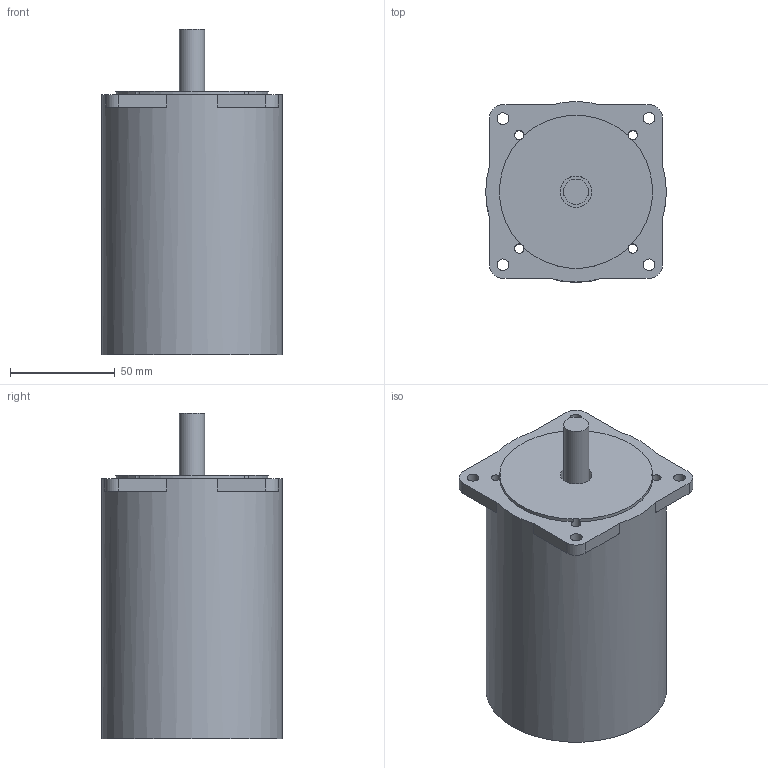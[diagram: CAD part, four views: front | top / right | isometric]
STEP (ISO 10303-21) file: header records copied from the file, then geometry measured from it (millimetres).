
FILE_DESCRIPTION(/* description */ (''),/* implementation_level */ '2;1');
FILE_NAME(/* name */ 'C:\Users\raffaele\Downloads\Projects\E&D\ipt-to-step-conversion\SLDPRT to STP\86ST125.stp',/* time_stamp */ '2021-04-07T17:16:37+02:00',/* author */ ('raffaele'),/* organization */ (''),/* preprocessor_version */ 'ST-DEVELOPER v18.1',/* originating_system */ 'Autodesk Inventor 2021',/* authorisation */ '');
FILE_SCHEMA (('AUTOMOTIVE_DESIGN { 1 0 10303 214 3 1 1 }'));
Length unit declared in the file: millimetre
Products named in the file (1): 86ST125
Bounding box: 86 x 86 x 155.1 mm (x, y, z)
Volume: 727936.2 mm3; surface area: 56798.4 mm2
Topology: 1 solids, 1 shells, 36 faces, 105 edges, 70 vertices
Faces by surface type: cylinder 19, plane 17
Full cylindrical faces by diameter (mm): 4.5 x4, 5.6 x4, 12 x1, 15 x1, 86 x1
Entity records: 1296 total; most frequent: DIRECTION 233, CARTESIAN_POINT 212, ORIENTED_EDGE 210, EDGE_CURVE 105, AXIS2_PLACEMENT_3D 91, VERTEX_POINT 70, CIRCLE 54, EDGE_LOOP 51
